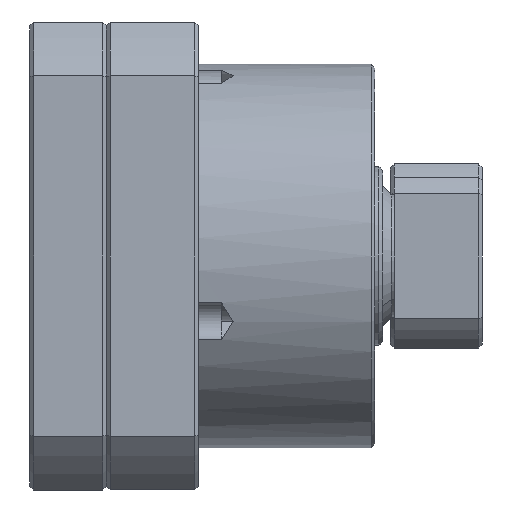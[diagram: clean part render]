
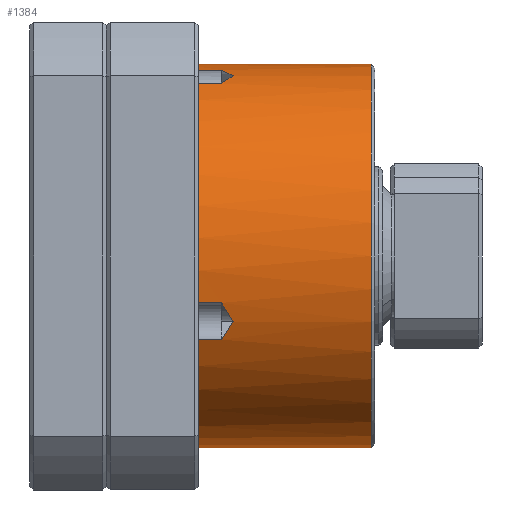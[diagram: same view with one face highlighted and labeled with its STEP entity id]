
A CAD part, front view. The second image highlights one B-rep face of the part: STEP entity #1384.
In plain terms, the highlighted cylindrical face has radius 25 mm (diameter 50 mm), a partial arc.
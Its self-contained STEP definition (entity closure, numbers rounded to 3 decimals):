
#114 = VERTEX_POINT ( 'NONE', #7017 ) ;
#135 = ORIENTED_EDGE ( 'NONE', *, *, #4741, .T. ) ;
#157 = CARTESIAN_POINT ( 'NONE',  ( -94.469, 0., 25. ) ) ;
#185 = VECTOR ( 'NONE', #6885, 1000. ) ;
#249 = VECTOR ( 'NONE', #4158, 1000. ) ;
#488 = VERTEX_POINT ( 'NONE', #974 ) ;
#554 = DIRECTION ( 'NONE',  ( 0., 0., 1. ) ) ;
#581 = DIRECTION ( 'NONE',  ( 0., 0., 1. ) ) ;
#645 = AXIS2_PLACEMENT_3D ( 'NONE', #7493, #4020, #554 ) ;
#838 = CARTESIAN_POINT ( 'NONE',  ( 15., -22.499, -10.899 ) ) ;
#974 = CARTESIAN_POINT ( 'NONE',  ( 15., -24.241, -6.113 ) ) ;
#982 = LINE ( 'NONE', #157, #2299 ) ;
#1037 = CARTESIAN_POINT ( 'NONE',  ( 16.022, -23.783, -7.752 ) ) ;
#1048 = DIRECTION ( 'NONE',  ( -1., 0., 0. ) ) ;
#1131 = VERTEX_POINT ( 'NONE', #3171 ) ;
#1169 = CARTESIAN_POINT ( 'NONE',  ( 15., -22.499, -10.899 ) ) ;
#1286 = CARTESIAN_POINT ( 'NONE',  ( 12., 0., -25. ) ) ;
#1363 = LINE ( 'NONE', #6953, #5804 ) ;
#1368 = CIRCLE ( 'NONE', #3095, 25. ) ;
#1384 = ADVANCED_FACE ( 'NONE', ( #5645 ), #2338, .T. ) ;
#1434 = AXIS2_PLACEMENT_3D ( 'NONE', #7520, #4048, #581 ) ;
#1460 = B_SPLINE_CURVE_WITH_KNOTS ( 'NONE', 3,
 ( #7178, #3116, #4292, #838 ),
 .UNSPECIFIED., .F., .F.,
 ( 4, 4 ),
 ( 0., 0.003 ),
 .UNSPECIFIED. ) ;
#1572 = CARTESIAN_POINT ( 'NONE',  ( 15., -10.899, 22.499 ) ) ;
#1591 = VERTEX_POINT ( 'NONE', #3792 ) ;
#1599 = ORIENTED_EDGE ( 'NONE', *, *, #7403, .T. ) ;
#1602 = ORIENTED_EDGE ( 'NONE', *, *, #4748, .T. ) ;
#1605 = CIRCLE ( 'NONE', #2871, 25. ) ;
#1631 = DIRECTION ( 'NONE',  ( -1., 0., 0. ) ) ;
#1680 = VERTEX_POINT ( 'NONE', #1572 ) ;
#1693 = CARTESIAN_POINT ( 'NONE',  ( 16.532, -8.551, 23.492 ) ) ;
#1699 = EDGE_CURVE ( 'NONE', #488, #1591, #6614, .T. ) ;
#1742 = CARTESIAN_POINT ( 'NONE',  ( 12., 0., 25. ) ) ;
#1779 = LINE ( 'NONE', #5306, #249 ) ;
#1842 = CARTESIAN_POINT ( 'NONE',  ( 16.532, -8.551, 23.492 ) ) ;
#1887 = EDGE_CURVE ( 'NONE', #2990, #3575, #1368, .T. ) ;
#1945 = ORIENTED_EDGE ( 'NONE', *, *, #1887, .F. ) ;
#2002 = EDGE_CURVE ( 'NONE', #6078, #1131, #5638, .T. ) ;
#2026 = EDGE_CURVE ( 'NONE', #3669, #114, #6807, .T. ) ;
#2120 = CARTESIAN_POINT ( 'NONE',  ( 12., -6.113, 24.241 ) ) ;
#2125 = VERTEX_POINT ( 'NONE', #5846 ) ;
#2139 = CARTESIAN_POINT ( 'NONE',  ( 12., 0., 0. ) ) ;
#2211 = ORIENTED_EDGE ( 'NONE', *, *, #5485, .F. ) ;
#2295 = DIRECTION ( 'NONE',  ( 1., 0., 0. ) ) ;
#2299 = VECTOR ( 'NONE', #4192, 1000. ) ;
#2304 = ORIENTED_EDGE ( 'NONE', *, *, #2406, .T. ) ;
#2338 = CYLINDRICAL_SURFACE ( 'NONE', #3399, 25. ) ;
#2383 = CARTESIAN_POINT ( 'NONE',  ( 15.51, -6.937, 24.033 ) ) ;
#2406 = EDGE_CURVE ( 'NONE', #1680, #3499, #6331, .T. ) ;
#2414 = EDGE_CURVE ( 'NONE', #3999, #2125, #6624, .T. ) ;
#2713 = DIRECTION ( 'NONE',  ( 0., 0., 1. ) ) ;
#2807 = CARTESIAN_POINT ( 'NONE',  ( 7.5, -22.499, -10.899 ) ) ;
#2871 = AXIS2_PLACEMENT_3D ( 'NONE', #5081, #1631, #5688 ) ;
#2962 = CARTESIAN_POINT ( 'NONE',  ( 7.5, -10.899, 22.499 ) ) ;
#2990 = VERTEX_POINT ( 'NONE', #2120 ) ;
#3016 = CARTESIAN_POINT ( 'NONE',  ( 7.5, -6.113, 24.241 ) ) ;
#3095 = AXIS2_PLACEMENT_3D ( 'NONE', #2139, #6198, #2713 ) ;
#3116 = CARTESIAN_POINT ( 'NONE',  ( 16.021, -23.201, -9.35 ) ) ;
#3117 = ORIENTED_EDGE ( 'NONE', *, *, #7299, .T. ) ;
#3171 = CARTESIAN_POINT ( 'NONE',  ( 34.5, 0., 25. ) ) ;
#3257 = LINE ( 'NONE', #2807, #185 ) ;
#3399 = AXIS2_PLACEMENT_3D ( 'NONE', #5060, #1048, #5614 ) ;
#3424 = CARTESIAN_POINT ( 'NONE',  ( 15.51, -10.134, 22.87 ) ) ;
#3499 = VERTEX_POINT ( 'NONE', #4960 ) ;
#3575 = VERTEX_POINT ( 'NONE', #1742 ) ;
#3669 = VERTEX_POINT ( 'NONE', #1286 ) ;
#3693 = VECTOR ( 'NONE', #6493, 1000. ) ;
#3757 = ORIENTED_EDGE ( 'NONE', *, *, #2026, .F. ) ;
#3792 = CARTESIAN_POINT ( 'NONE',  ( 16.532, -23.492, -8.551 ) ) ;
#3917 = CARTESIAN_POINT ( 'NONE',  ( 15., -24.241, -6.113 ) ) ;
#3999 = VERTEX_POINT ( 'NONE', #4018 ) ;
#4018 = CARTESIAN_POINT ( 'NONE',  ( 15., -6.113, 24.241 ) ) ;
#4020 = DIRECTION ( 'NONE',  ( -1., 0., 0. ) ) ;
#4023 = VERTEX_POINT ( 'NONE', #1169 ) ;
#4048 = DIRECTION ( 'NONE',  ( -1., 0., 0. ) ) ;
#4049 = LINE ( 'NONE', #3016, #3693 ) ;
#4158 = DIRECTION ( 'NONE',  ( -1., 0., 0. ) ) ;
#4192 = DIRECTION ( 'NONE',  ( -1., 0., 0. ) ) ;
#4193 = VERTEX_POINT ( 'NONE', #6868 ) ;
#4202 = ORIENTED_EDGE ( 'NONE', *, *, #5717, .F. ) ;
#4292 = CARTESIAN_POINT ( 'NONE',  ( 15.51, -22.87, -10.134 ) ) ;
#4380 = EDGE_LOOP ( 'NONE', ( #4202, #6017, #135, #1945, #1602, #6277, #7197, #2304, #2211, #1599, #5389, #4568, #3117, #3757 ) ) ;
#4568 = ORIENTED_EDGE ( 'NONE', *, *, #5822, .T. ) ;
#4604 = VECTOR ( 'NONE', #6971, 1000. ) ;
#4741 = EDGE_CURVE ( 'NONE', #1131, #3575, #982, .T. ) ;
#4748 = EDGE_CURVE ( 'NONE', #2990, #3999, #4049, .T. ) ;
#4960 = CARTESIAN_POINT ( 'NONE',  ( 12., -10.899, 22.499 ) ) ;
#5060 = CARTESIAN_POINT ( 'NONE',  ( -94.469, 0., 0. ) ) ;
#5069 = CARTESIAN_POINT ( 'NONE',  ( 16.532, -23.492, -8.551 ) ) ;
#5081 = CARTESIAN_POINT ( 'NONE',  ( 12., 0., 0. ) ) ;
#5306 = CARTESIAN_POINT ( 'NONE',  ( -94.469, 0., -25. ) ) ;
#5314 = CARTESIAN_POINT ( 'NONE',  ( 16.022, -7.752, 23.783 ) ) ;
#5389 = ORIENTED_EDGE ( 'NONE', *, *, #1699, .T. ) ;
#5485 = EDGE_CURVE ( 'NONE', #4193, #3499, #1605, .T. ) ;
#5614 = DIRECTION ( 'NONE',  ( 0., 0., 1. ) ) ;
#5638 = CIRCLE ( 'NONE', #645, 25. ) ;
#5645 = FACE_OUTER_BOUND ( 'NONE', #4380, .T. ) ;
#5688 = DIRECTION ( 'NONE',  ( 0., 0., 1. ) ) ;
#5717 = EDGE_CURVE ( 'NONE', #6078, #3669, #1779, .T. ) ;
#5752 = CARTESIAN_POINT ( 'NONE',  ( 16.021, -9.35, 23.201 ) ) ;
#5804 = VECTOR ( 'NONE', #2295, 1000. ) ;
#5822 = EDGE_CURVE ( 'NONE', #1591, #4023, #1460, .T. ) ;
#5846 = CARTESIAN_POINT ( 'NONE',  ( 16.532, -8.551, 23.492 ) ) ;
#5951 = CARTESIAN_POINT ( 'NONE',  ( 34.5, 0., -25. ) ) ;
#6017 = ORIENTED_EDGE ( 'NONE', *, *, #2002, .T. ) ;
#6078 = VERTEX_POINT ( 'NONE', #5951 ) ;
#6198 = DIRECTION ( 'NONE',  ( -1., 0., 0. ) ) ;
#6255 = B_SPLINE_CURVE_WITH_KNOTS ( 'NONE', 3,
 ( #1693, #5752, #3424, #7486 ),
 .UNSPECIFIED., .F., .F.,
 ( 4, 4 ),
 ( 0., 0.003 ),
 .UNSPECIFIED. ) ;
#6277 = ORIENTED_EDGE ( 'NONE', *, *, #2414, .T. ) ;
#6331 = LINE ( 'NONE', #2962, #4604 ) ;
#6442 = CARTESIAN_POINT ( 'NONE',  ( 15., -6.113, 24.241 ) ) ;
#6493 = DIRECTION ( 'NONE',  ( 1., 0., 0. ) ) ;
#6614 = B_SPLINE_CURVE_WITH_KNOTS ( 'NONE', 3,
 ( #3917, #7382, #1037, #5069 ),
 .UNSPECIFIED., .F., .F.,
 ( 4, 4 ),
 ( 0.001, 0.004 ),
 .UNSPECIFIED. ) ;
#6624 = B_SPLINE_CURVE_WITH_KNOTS ( 'NONE', 3,
 ( #6442, #2383, #5314, #1842 ),
 .UNSPECIFIED., .F., .F.,
 ( 4, 4 ),
 ( 0.001, 0.004 ),
 .UNSPECIFIED. ) ;
#6807 = CIRCLE ( 'NONE', #1434, 25. ) ;
#6868 = CARTESIAN_POINT ( 'NONE',  ( 12., -24.241, -6.113 ) ) ;
#6885 = DIRECTION ( 'NONE',  ( -1., 0., 0. ) ) ;
#6953 = CARTESIAN_POINT ( 'NONE',  ( 7.5, -24.241, -6.113 ) ) ;
#6971 = DIRECTION ( 'NONE',  ( -1., 0., 0. ) ) ;
#7017 = CARTESIAN_POINT ( 'NONE',  ( 12., -22.499, -10.899 ) ) ;
#7178 = CARTESIAN_POINT ( 'NONE',  ( 16.532, -23.492, -8.551 ) ) ;
#7197 = ORIENTED_EDGE ( 'NONE', *, *, #7344, .T. ) ;
#7299 = EDGE_CURVE ( 'NONE', #4023, #114, #3257, .T. ) ;
#7344 = EDGE_CURVE ( 'NONE', #2125, #1680, #6255, .T. ) ;
#7382 = CARTESIAN_POINT ( 'NONE',  ( 15.51, -24.033, -6.937 ) ) ;
#7403 = EDGE_CURVE ( 'NONE', #4193, #488, #1363, .T. ) ;
#7486 = CARTESIAN_POINT ( 'NONE',  ( 15., -10.899, 22.499 ) ) ;
#7493 = CARTESIAN_POINT ( 'NONE',  ( 34.5, 0., 0. ) ) ;
#7520 = CARTESIAN_POINT ( 'NONE',  ( 12., 0., 0. ) ) ;
